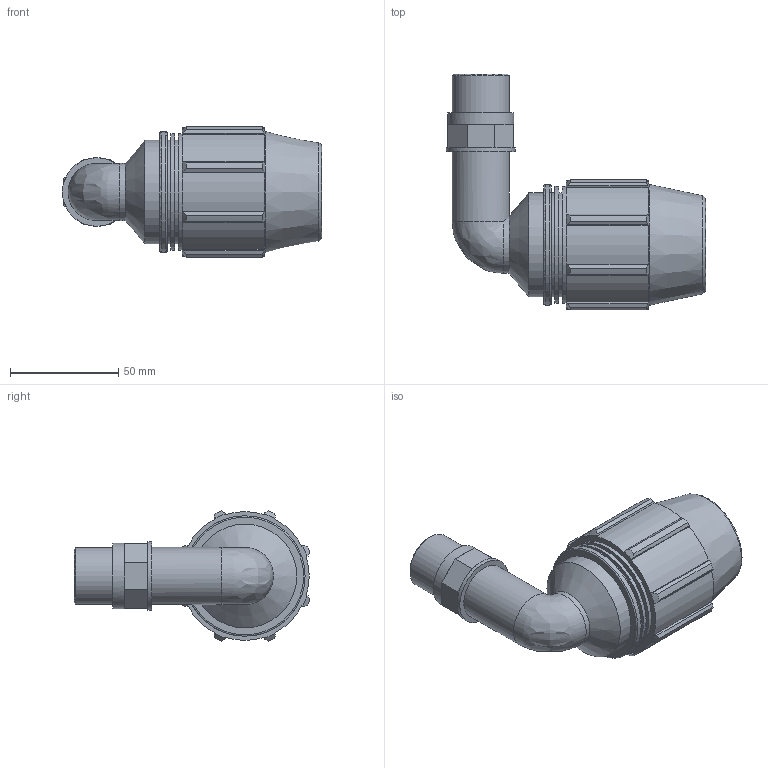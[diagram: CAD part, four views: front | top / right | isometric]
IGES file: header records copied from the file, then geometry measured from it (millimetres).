
Global section: file name: 077700032007__0777060320070A.ipt; native system: Autodesk Inventor 2015; preprocessor: unknown; author: KIM; date: 20170622.103039; units: millimetre
Bounding box: 119.86 x 109.11 x 60.22 mm (x, y, z)
Volume: 174469.9 mm3; surface area: 43192.9 mm2
Topology: 1 solids, 1 shells, 125 faces, 320 edges, 205 vertices
Faces by surface type: plane 76, cylinder 27, cone 12, revolution 9, bspline 1
Full cylindrical faces by diameter (mm): 26.441 x2, 30.407 x1, 31.729 x1, 48 x3, 54.01 x2, 55.68 x1
